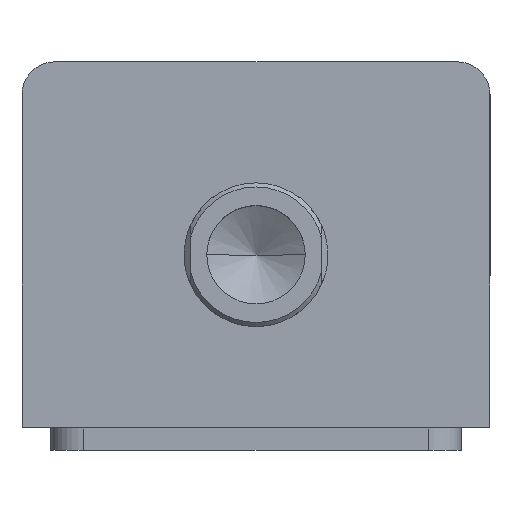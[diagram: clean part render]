
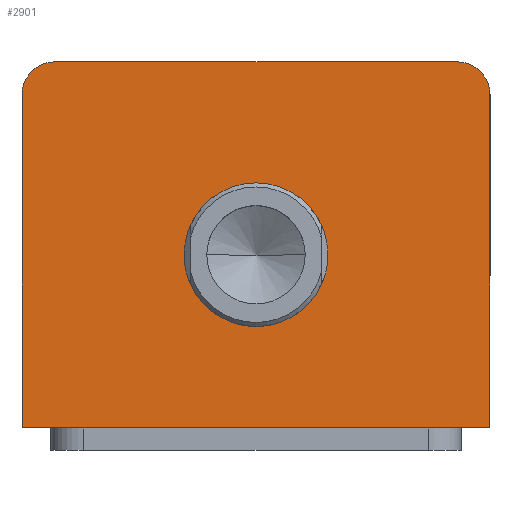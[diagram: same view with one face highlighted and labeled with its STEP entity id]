
A CAD part, top view. The second image highlights one B-rep face of the part: STEP entity #2901.
In plain terms, the highlighted planar face has unit normal (0, 0, 1).
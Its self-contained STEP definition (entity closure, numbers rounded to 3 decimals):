
#164 = VERTEX_POINT ( 'NONE', #998 ) ;
#168 = VERTEX_POINT ( 'NONE', #1083 ) ;
#215 = VERTEX_POINT ( 'NONE', #997 ) ;
#220 = VERTEX_POINT ( 'NONE', #930 ) ;
#228 = VERTEX_POINT ( 'NONE', #1038 ) ;
#314 = VECTOR ( 'NONE', #625, 1000. ) ;
#317 = CIRCLE ( 'NONE', #1928, 17.5 ) ;
#318 = LINE ( 'NONE', #626, #314 ) ;
#356 = VECTOR ( 'NONE', #564, 1000. ) ;
#357 = EDGE_CURVE ( 'NONE', #2295, #2458, #1627, .T. ) ;
#369 = EDGE_CURVE ( 'NONE', #215, #228, #1869, .T. ) ;
#375 = EDGE_CURVE ( 'NONE', #164, #220, #1747, .T. ) ;
#408 = AXIS2_PLACEMENT_3D ( 'NONE', #500, #499, #498 ) ;
#442 = CARTESIAN_POINT ( 'NONE',  ( 17.5, -2.5, 87. ) ) ;
#460 = CARTESIAN_POINT ( 'NONE',  ( -57., -44.5, 87. ) ) ;
#498 = DIRECTION ( 'NONE',  ( 1., 0., 0. ) ) ;
#499 = DIRECTION ( 'NONE',  ( 0., 0., 1. ) ) ;
#500 = CARTESIAN_POINT ( 'NONE',  ( 0., -2.5, 87. ) ) ;
#564 = DIRECTION ( 'NONE',  ( 0., -1., 0. ) ) ;
#566 = CARTESIAN_POINT ( 'NONE',  ( -57., 44.5, 87. ) ) ;
#625 = DIRECTION ( 'NONE',  ( 0., 1., 0. ) ) ;
#626 = CARTESIAN_POINT ( 'NONE',  ( 57., 44.5, 87. ) ) ;
#627 = DIRECTION ( 'NONE',  ( 1., 0., 0. ) ) ;
#663 = DIRECTION ( 'NONE',  ( 0., 0., 1. ) ) ;
#664 = CARTESIAN_POINT ( 'NONE',  ( 0., -2.5, 87. ) ) ;
#811 = CARTESIAN_POINT ( 'NONE',  ( -57., 44.5, 87. ) ) ;
#827 = DIRECTION ( 'NONE',  ( 0., 0., 1. ) ) ;
#828 = CARTESIAN_POINT ( 'NONE',  ( 49., 36.5, 87. ) ) ;
#859 = DIRECTION ( 'NONE',  ( 1., 0., 0. ) ) ;
#862 = DIRECTION ( 'NONE',  ( 0., 0., 1. ) ) ;
#864 = CARTESIAN_POINT ( 'NONE',  ( -49., 36.5, 87. ) ) ;
#880 = DIRECTION ( 'NONE',  ( -1., 0., 0. ) ) ;
#930 = CARTESIAN_POINT ( 'NONE',  ( 49., 44.5, 87. ) ) ;
#943 = DIRECTION ( 'NONE',  ( 1., 0., 0. ) ) ;
#997 = CARTESIAN_POINT ( 'NONE',  ( -49., 44.5, 87. ) ) ;
#998 = CARTESIAN_POINT ( 'NONE',  ( 57., 36.5, 87. ) ) ;
#1000 = DIRECTION ( 'NONE',  ( 1., 0., 0. ) ) ;
#1001 = CARTESIAN_POINT ( 'NONE',  ( -57., -44.5, 87. ) ) ;
#1038 = CARTESIAN_POINT ( 'NONE',  ( -57., 36.5, 87. ) ) ;
#1083 = CARTESIAN_POINT ( 'NONE',  ( -17.5, -2.5, 87. ) ) ;
#1122 = AXIS2_PLACEMENT_3D ( 'NONE', #1334, #1328, #1327 ) ;
#1172 = CIRCLE ( 'NONE', #408, 17.5 ) ;
#1180 = EDGE_CURVE ( 'NONE', #220, #215, #1796, .T. ) ;
#1327 = DIRECTION ( 'NONE',  ( 1., 0., 0. ) ) ;
#1328 = DIRECTION ( 'NONE',  ( 0., 0., 1. ) ) ;
#1330 = PLANE ( 'NONE',  #1122 ) ;
#1334 = CARTESIAN_POINT ( 'NONE',  ( 0., 0., 87. ) ) ;
#1403 = FACE_OUTER_BOUND ( 'NONE', #1653, .T. ) ;
#1467 = VECTOR ( 'NONE', #880, 1000. ) ;
#1468 = ORIENTED_EDGE ( 'NONE', *, *, #2196, .F. ) ;
#1602 = ORIENTED_EDGE ( 'NONE', *, *, #375, .T. ) ;
#1627 = LINE ( 'NONE', #1001, #1718 ) ;
#1641 = ORIENTED_EDGE ( 'NONE', *, *, #2081, .F. ) ;
#1653 = EDGE_LOOP ( 'NONE', ( #1840, #1661, #1854, #1806, #1918, #1602 ) ) ;
#1661 = ORIENTED_EDGE ( 'NONE', *, *, #369, .T. ) ;
#1704 = EDGE_LOOP ( 'NONE', ( #1468, #1641 ) ) ;
#1718 = VECTOR ( 'NONE', #1000, 1000. ) ;
#1747 = CIRCLE ( 'NONE', #2193, 8. ) ;
#1796 = LINE ( 'NONE', #811, #1467 ) ;
#1806 = ORIENTED_EDGE ( 'NONE', *, *, #357, .T. ) ;
#1840 = ORIENTED_EDGE ( 'NONE', *, *, #1180, .T. ) ;
#1854 = ORIENTED_EDGE ( 'NONE', *, *, #2164, .T. ) ;
#1869 = CIRCLE ( 'NONE', #2200, 8. ) ;
#1918 = ORIENTED_EDGE ( 'NONE', *, *, #2083, .T. ) ;
#1928 = AXIS2_PLACEMENT_3D ( 'NONE', #664, #663, #627 ) ;
#2081 = EDGE_CURVE ( 'NONE', #168, #2403, #317, .T. ) ;
#2083 = EDGE_CURVE ( 'NONE', #2458, #164, #318, .T. ) ;
#2155 = LINE ( 'NONE', #566, #356 ) ;
#2164 = EDGE_CURVE ( 'NONE', #228, #2295, #2155, .T. ) ;
#2193 = AXIS2_PLACEMENT_3D ( 'NONE', #828, #827, #943 ) ;
#2196 = EDGE_CURVE ( 'NONE', #2403, #168, #1172, .T. ) ;
#2200 = AXIS2_PLACEMENT_3D ( 'NONE', #864, #862, #859 ) ;
#2295 = VERTEX_POINT ( 'NONE', #460 ) ;
#2403 = VERTEX_POINT ( 'NONE', #442 ) ;
#2458 = VERTEX_POINT ( 'NONE', #3132 ) ;
#2901 = ADVANCED_FACE ( 'NONE', ( #3408, #1403 ), #1330, .T. ) ;
#3132 = CARTESIAN_POINT ( 'NONE',  ( 57., -44.5, 87. ) ) ;
#3408 = FACE_BOUND ( 'NONE', #1704, .T. ) ;
